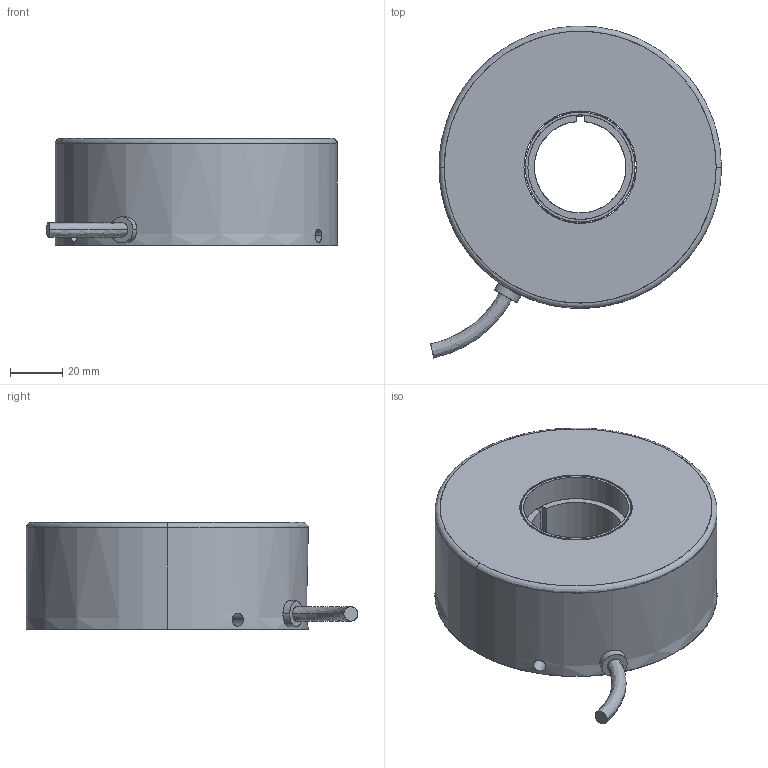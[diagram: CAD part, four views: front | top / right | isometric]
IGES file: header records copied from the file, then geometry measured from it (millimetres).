
Start section: SolidWorks IGES file using analytic representation for surfaces
Bounding box: 111.21 x 126.94 x 41 mm (x, y, z)
Surface area: 45870.7 mm2 (no closed solid volume)
Topology: 0 solids, 0 shells, 37 faces, 1290 edges, 1290 vertices
Faces by surface type: revolution 21, bspline 16
